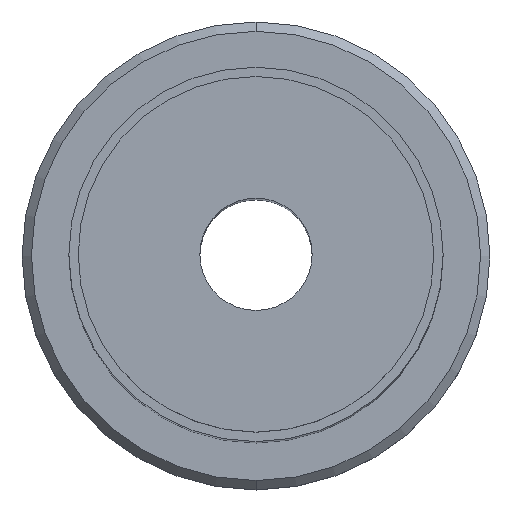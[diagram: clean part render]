
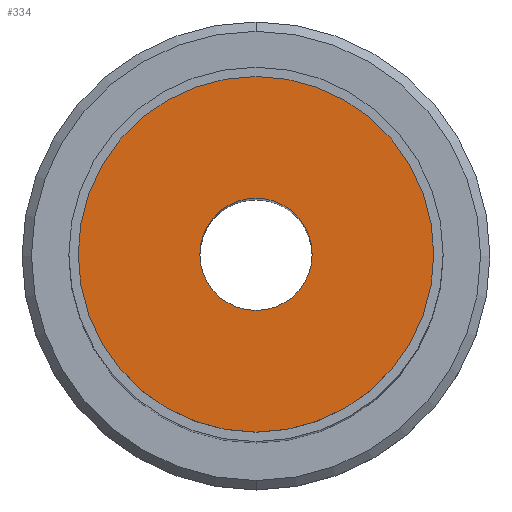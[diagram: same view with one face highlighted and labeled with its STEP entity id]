
A CAD part, top view. The second image highlights one B-rep face of the part: STEP entity #334.
In plain terms, the highlighted planar face has unit normal (0, 0, 1).
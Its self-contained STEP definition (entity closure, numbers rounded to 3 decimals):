
#192=VERTEX_POINT('',#512);
#308=EDGE_CURVE('',#430,#192,#643,.T.);
#334=ADVANCED_FACE('',(#676,#677),#678,.T.);
#338=VERTEX_POINT('',#682);
#354=EDGE_CURVE('',#338,#466,#699,.T.);
#370=EDGE_CURVE('',#192,#430,#718,.T.);
#410=EDGE_CURVE('',#466,#338,#760,.T.);
#430=VERTEX_POINT('',#781);
#466=VERTEX_POINT('',#821);
#512=CARTESIAN_POINT('',(0.0,9.5,0.0));
#643=CIRCLE('',#1058,9.5);
#676=FACE_OUTER_BOUND('',#1097,.T.);
#677=FACE_BOUND('',#1098,.T.);
#678=PLANE('',#1099);
#682=CARTESIAN_POINT('',(0.0,3.0,0.0));
#699=CIRCLE('',#1128,3.0);
#718=CIRCLE('',#1150,9.5);
#760=CIRCLE('',#1211,3.0);
#781=CARTESIAN_POINT('',(0.,-9.5,0.0));
#821=CARTESIAN_POINT('',(0.,-3.0,0.0));
#1058=AXIS2_PLACEMENT_3D('',#1573,#1574,#1575);
#1097=EDGE_LOOP('',(#1620,#1621));
#1098=EDGE_LOOP('',(#1622,#1623));
#1099=AXIS2_PLACEMENT_3D('',#1624,#1625,#1626);
#1128=AXIS2_PLACEMENT_3D('',#1646,#1647,#1648);
#1150=AXIS2_PLACEMENT_3D('',#1674,#1675,#1676);
#1211=AXIS2_PLACEMENT_3D('',#1711,#1712,#1713);
#1573=CARTESIAN_POINT('',(0.0,0.0,0.0));
#1574=DIRECTION('',(0.0,0.0,-1.0));
#1575=DIRECTION('',(0.0,1.0,0.0));
#1620=ORIENTED_EDGE('',*,*,#370,.F.);
#1621=ORIENTED_EDGE('',*,*,#308,.F.);
#1622=ORIENTED_EDGE('',*,*,#354,.T.);
#1623=ORIENTED_EDGE('',*,*,#410,.T.);
#1624=CARTESIAN_POINT('',(0.0,6.25,0.0));
#1625=DIRECTION('',(-0.0,0.0,1.0));
#1626=DIRECTION('',(0.0,-1.0,0.0));
#1646=CARTESIAN_POINT('',(0.0,0.0,0.0));
#1647=DIRECTION('',(0.0,0.0,-1.0));
#1648=DIRECTION('',(0.0,1.0,0.0));
#1674=CARTESIAN_POINT('',(0.0,0.0,0.0));
#1675=DIRECTION('',(0.0,0.0,-1.0));
#1676=DIRECTION('',(0.0,1.0,0.0));
#1711=CARTESIAN_POINT('',(0.0,0.0,0.0));
#1712=DIRECTION('',(0.0,0.0,-1.0));
#1713=DIRECTION('',(0.0,1.0,0.0));
